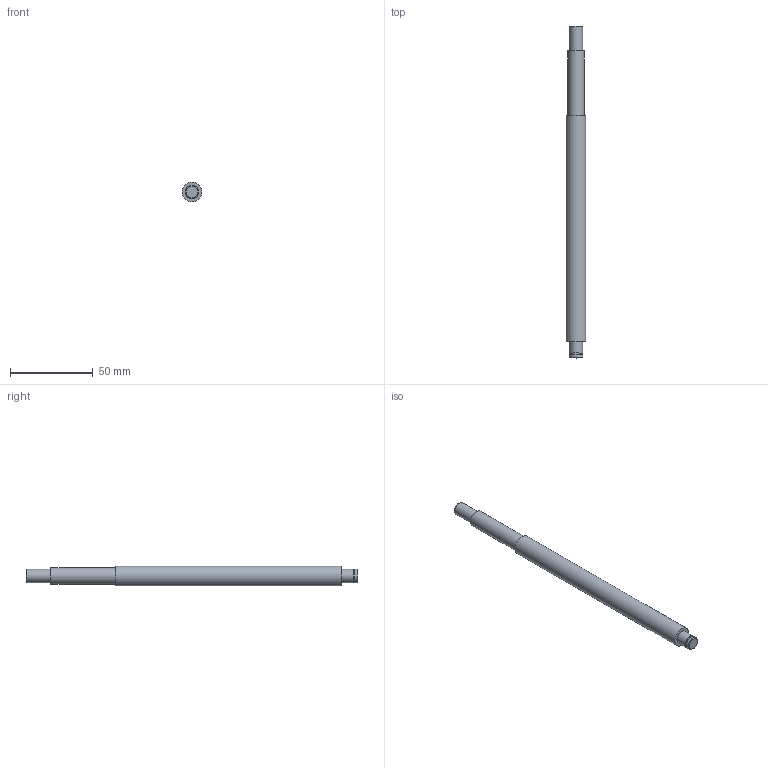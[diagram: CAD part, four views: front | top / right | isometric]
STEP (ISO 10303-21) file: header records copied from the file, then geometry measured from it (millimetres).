
FILE_DESCRIPTION(/* description */ (''),/* implementation_level */ '2;1');
FILE_NAME(/* name */ 'C:\Users\David\Desktop\stepFiles\Profilfuehrung\KUS1204x200.stp',/* time_stamp */ '2018-06-24T15:05:12+02:00',/* author */ ('David'),/* organization */ (''),/* preprocessor_version */ 'ST-DEVELOPER v17',/* originating_system */ 'Autodesk Inventor 2019',/* authorisation */ '');
FILE_SCHEMA (('AUTOMOTIVE_DESIGN { 1 0 10303 214 3 1 1 }'));
Length unit declared in the file: millimetre
Products named in the file (1): SFU1204xvariabel
Bounding box: 12 x 200 x 12 mm (x, y, z)
Volume: 19690.5 mm3; surface area: 7200.1 mm2
Topology: 1 solids, 1 shells, 15 faces, 34 edges, 26 vertices
Faces by surface type: plane 7, cylinder 6, cone 2
Full cylindrical faces by diameter (mm): 7.6 x1, 8 x3, 10 x1, 12 x1
Entity records: 493 total; most frequent: DIRECTION 92, CARTESIAN_POINT 76, ORIENTED_EDGE 68, AXIS2_PLACEMENT_3D 42, EDGE_CURVE 34, CIRCLE 26, VERTEX_POINT 26, EDGE_LOOP 20
